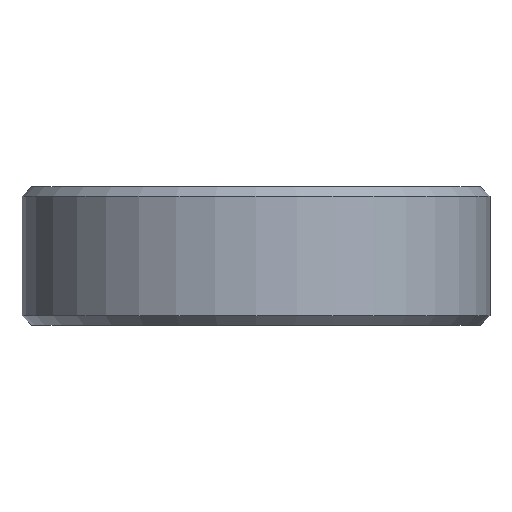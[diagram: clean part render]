
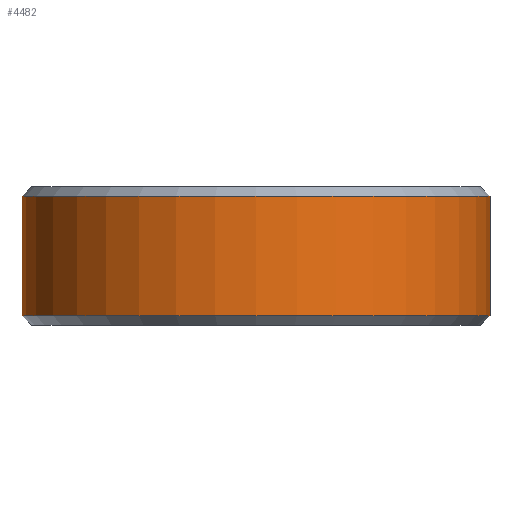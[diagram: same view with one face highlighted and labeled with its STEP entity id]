
A CAD part, front view. The second image highlights one B-rep face of the part: STEP entity #4482.
In plain terms, the highlighted cylindrical face has radius 25.4 mm (diameter 50.8 mm), a partial arc.
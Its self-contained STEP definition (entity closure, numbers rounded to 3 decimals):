
#197 = AXIS2_PLACEMENT_3D ( 'NONE', #5955, #2252, #4913 ) ;
#264 = CARTESIAN_POINT ( 'NONE',  ( -8.119, -2.293, 45.5 ) ) ;
#339 = AXIS2_PLACEMENT_3D ( 'NONE', #4861, #3764, #3739 ) ;
#1113 = VERTEX_POINT ( 'NONE', #5748 ) ;
#1221 = EDGE_CURVE ( 'NONE', #1340, #2222, #4251, .T. ) ;
#1340 = VERTEX_POINT ( 'NONE', #1934 ) ;
#1487 = VECTOR ( 'NONE', #4826, 1000. ) ;
#1613 = CIRCLE ( 'NONE', #2375, 25.4 ) ;
#1705 = CARTESIAN_POINT ( 'NONE',  ( 17.281, -2.293, 59.5 ) ) ;
#1730 = VECTOR ( 'NONE', #3140, 1000. ) ;
#1734 = CARTESIAN_POINT ( 'NONE',  ( -33.519, -2.293, 59.5 ) ) ;
#1829 = EDGE_CURVE ( 'NONE', #1340, #1113, #2186, .T. ) ;
#1934 = CARTESIAN_POINT ( 'NONE',  ( 17.281, -2.293, 58.5 ) ) ;
#2186 = LINE ( 'NONE', #1705, #1730 ) ;
#2222 = VERTEX_POINT ( 'NONE', #2518 ) ;
#2252 = DIRECTION ( 'NONE',  ( 0., 0., -1. ) ) ;
#2276 = LINE ( 'NONE', #1734, #1487 ) ;
#2295 = CYLINDRICAL_SURFACE ( 'NONE', #197, 25.4 ) ;
#2375 = AXIS2_PLACEMENT_3D ( 'NONE', #264, #5388, #6037 ) ;
#2518 = CARTESIAN_POINT ( 'NONE',  ( -33.519, -2.293, 58.5 ) ) ;
#2833 = ORIENTED_EDGE ( 'NONE', *, *, #1829, .F. ) ;
#3140 = DIRECTION ( 'NONE',  ( 0., 0., -1. ) ) ;
#3537 = ORIENTED_EDGE ( 'NONE', *, *, #5307, .T. ) ;
#3739 = DIRECTION ( 'NONE',  ( 1., 0., 0. ) ) ;
#3764 = DIRECTION ( 'NONE',  ( 0., 0., -1. ) ) ;
#3949 = ORIENTED_EDGE ( 'NONE', *, *, #6151, .T. ) ;
#3950 = ORIENTED_EDGE ( 'NONE', *, *, #1221, .T. ) ;
#4251 = CIRCLE ( 'NONE', #339, 25.4 ) ;
#4396 = FACE_OUTER_BOUND ( 'NONE', #6059, .T. ) ;
#4482 = ADVANCED_FACE ( 'NONE', ( #4396 ), #2295, .T. ) ;
#4826 = DIRECTION ( 'NONE',  ( 0., 0., -1. ) ) ;
#4861 = CARTESIAN_POINT ( 'NONE',  ( -8.119, -2.293, 58.5 ) ) ;
#4913 = DIRECTION ( 'NONE',  ( -1., 0., 0. ) ) ;
#5307 = EDGE_CURVE ( 'NONE', #2222, #6477, #2276, .T. ) ;
#5388 = DIRECTION ( 'NONE',  ( 0., 0., 1. ) ) ;
#5748 = CARTESIAN_POINT ( 'NONE',  ( 17.281, -2.293, 45.5 ) ) ;
#5763 = CARTESIAN_POINT ( 'NONE',  ( -33.519, -2.293, 45.5 ) ) ;
#5955 = CARTESIAN_POINT ( 'NONE',  ( -8.119, -2.293, 59.5 ) ) ;
#6037 = DIRECTION ( 'NONE',  ( 1., 0., 0. ) ) ;
#6059 = EDGE_LOOP ( 'NONE', ( #2833, #3950, #3537, #3949 ) ) ;
#6151 = EDGE_CURVE ( 'NONE', #6477, #1113, #1613, .T. ) ;
#6477 = VERTEX_POINT ( 'NONE', #5763 ) ;
